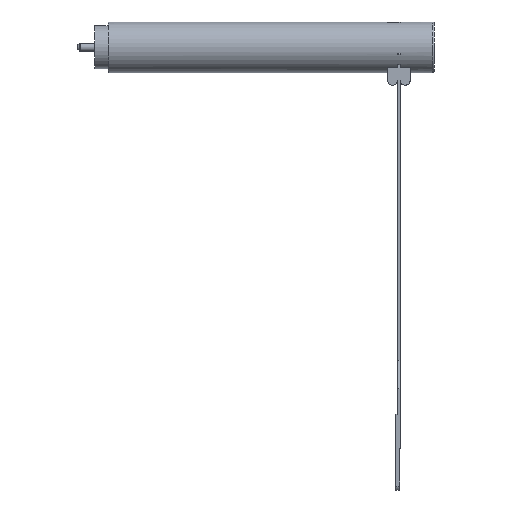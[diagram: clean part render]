
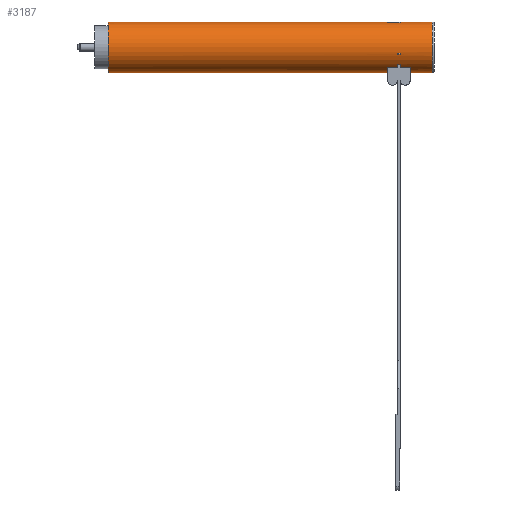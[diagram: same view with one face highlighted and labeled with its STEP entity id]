
A CAD part, top view. The second image highlights one B-rep face of the part: STEP entity #3187.
In plain terms, the highlighted cylindrical face has radius 2 mm (diameter 4 mm), a partial arc.
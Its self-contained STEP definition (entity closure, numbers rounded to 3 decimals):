
#142=CARTESIAN_POINT('',(0.,0.,0.));
#143=DIRECTION('',(1.,0.,0.));
#144=DIRECTION('',(0.,1.,0.));
#145=AXIS2_PLACEMENT_3D('',#142,#143,#144);
#188=DIRECTION('',(-1.,0.,0.));
#189=VECTOR('',#188,22.1);
#190=CARTESIAN_POINT('',(22.1,2.,0.));
#191=LINE('',#190,#189);
#195=DIRECTION('',(-1.,0.,0.));
#196=VECTOR('',#195,22.1);
#197=CARTESIAN_POINT('',(22.1,-2.,0.));
#198=LINE('',#197,#196);
#572=CARTESIAN_POINT('',(23.1,0.,0.));
#573=DIRECTION('',(1.,0.,0.));
#574=DIRECTION('',(0.,-0.243,0.97));
#575=AXIS2_PLACEMENT_3D('',#572,#573,#574);
#602=CARTESIAN_POINT('',(23.1,0.,0.));
#603=DIRECTION('',(1.,0.,0.));
#604=DIRECTION('',(0.,-0.691,0.722));
#605=AXIS2_PLACEMENT_3D('',#602,#603,#604);
#696=DIRECTION('',(-1.,0.,0.));
#697=VECTOR('',#696,0.2);
#698=CARTESIAN_POINT('',(23.1,-0.56,1.92));
#699=LINE('',#698,#697);
#774=DIRECTION('',(1.,0.,0.));
#775=VECTOR('',#774,0.2);
#776=CARTESIAN_POINT('',(22.9,1.923,0.55));
#777=LINE('',#776,#775);
#781=CARTESIAN_POINT('',(23.1,0.,0.));
#782=DIRECTION('',(-1.,0.,0.));
#783=DIRECTION('',(0.,0.971,0.238));
#784=AXIS2_PLACEMENT_3D('',#781,#782,#783);
#789=DIRECTION('',(-1.,0.,0.));
#790=VECTOR('',#789,2.55);
#791=CARTESIAN_POINT('',(25.65,2.,0.));
#792=LINE('',#791,#790);
#796=CARTESIAN_POINT('',(25.65,0.,0.));
#797=DIRECTION('',(-1.,0.,0.));
#798=DIRECTION('',(0.,-1.,0.));
#799=AXIS2_PLACEMENT_3D('',#796,#797,#798);
#804=DIRECTION('',(-1.,0.,0.));
#805=VECTOR('',#804,1.75);
#806=CARTESIAN_POINT('',(25.65,-2.,0.));
#807=LINE('',#806,#805);
#811=CARTESIAN_POINT('',(23.9,0.,0.));
#812=DIRECTION('',(-1.,0.,0.));
#813=DIRECTION('',(0.,-1.,0.));
#814=AXIS2_PLACEMENT_3D('',#811,#812,#813);
#819=DIRECTION('',(-1.,0.,0.));
#820=VECTOR('',#819,0.8);
#821=CARTESIAN_POINT('',(23.9,-1.6,1.2));
#822=LINE('',#821,#820);
#826=DIRECTION('',(-1.,0.,0.));
#827=VECTOR('',#826,0.2);
#828=CARTESIAN_POINT('',(23.1,-1.383,1.445));
#829=LINE('',#828,#827);
#833=CARTESIAN_POINT('',(22.9,0.,0.));
#834=DIRECTION('',(1.,0.,0.));
#835=DIRECTION('',(0.,-0.691,0.722));
#836=AXIS2_PLACEMENT_3D('',#833,#834,#835);
#841=DIRECTION('',(1.,0.,0.));
#842=VECTOR('',#841,0.8);
#843=CARTESIAN_POINT('',(22.1,-1.6,1.2));
#844=LINE('',#843,#842);
#848=CARTESIAN_POINT('',(22.1,0.,0.));
#849=DIRECTION('',(1.,0.,0.));
#850=DIRECTION('',(0.,-0.8,0.6));
#851=AXIS2_PLACEMENT_3D('',#848,#849,#850);
#856=CARTESIAN_POINT('',(22.1,0.,0.));
#857=DIRECTION('',(-1.,0.,0.));
#858=DIRECTION('',(0.,0.971,0.238));
#859=AXIS2_PLACEMENT_3D('',#856,#857,#858);
#864=DIRECTION('',(1.,0.,0.));
#865=VECTOR('',#864,0.8);
#866=CARTESIAN_POINT('',(22.1,1.943,0.475));
#867=LINE('',#866,#865);
#871=CARTESIAN_POINT('',(22.9,0.,0.));
#872=DIRECTION('',(1.,0.,0.));
#873=DIRECTION('',(0.,0.971,0.238));
#874=AXIS2_PLACEMENT_3D('',#871,#872,#873);
#879=CARTESIAN_POINT('',(22.9,0.,0.));
#880=DIRECTION('',(1.,0.,0.));
#881=DIRECTION('',(0.,-0.243,0.97));
#882=AXIS2_PLACEMENT_3D('',#879,#880,#881);
#887=DIRECTION('',(1.,0.,0.));
#888=VECTOR('',#887,0.2);
#889=CARTESIAN_POINT('',(22.9,-0.485,1.94));
#890=LINE('',#889,#888);
#931=CARTESIAN_POINT('',(23.1,0.,0.));
#932=DIRECTION('',(1.,0.,0.));
#933=DIRECTION('',(0.,0.971,0.238));
#934=AXIS2_PLACEMENT_3D('',#931,#932,#933);
#2033=CARTESIAN_POINT('',(0.,2.,0.));
#2034=CARTESIAN_POINT('',(0.,-2.,0.));
#2035=VERTEX_POINT('',#2033);
#2036=VERTEX_POINT('',#2034);
#2073=CARTESIAN_POINT('',(22.1,-1.6,1.2));
#2074=CARTESIAN_POINT('',(22.1,-2.,0.));
#2075=VERTEX_POINT('',#2073);
#2076=VERTEX_POINT('',#2074);
#2215=CARTESIAN_POINT('',(22.9,-1.6,1.2));
#2217=VERTEX_POINT('',#2215);
#2223=CARTESIAN_POINT('',(22.9,1.923,0.55));
#2225=VERTEX_POINT('',#2223);
#2243=CARTESIAN_POINT('',(22.9,-0.485,1.94));
#2244=VERTEX_POINT('',#2243);
#2259=CARTESIAN_POINT('',(23.1,1.943,0.475));
#2260=CARTESIAN_POINT('',(23.1,2.,0.));
#2261=VERTEX_POINT('',#2259);
#2262=VERTEX_POINT('',#2260);
#2270=CARTESIAN_POINT('',(23.9,-2.,0.));
#2272=VERTEX_POINT('',#2270);
#2273=CARTESIAN_POINT('',(23.9,-1.6,1.2));
#2274=VERTEX_POINT('',#2273);
#2279=CARTESIAN_POINT('',(25.65,2.,0.));
#2280=CARTESIAN_POINT('',(25.65,-2.,0.));
#2281=VERTEX_POINT('',#2279);
#2282=VERTEX_POINT('',#2280);
#2287=CARTESIAN_POINT('',(23.1,-0.56,1.92));
#2289=VERTEX_POINT('',#2287);
#2293=CARTESIAN_POINT('',(23.1,-1.383,1.445));
#2294=VERTEX_POINT('',#2293);
#2303=CARTESIAN_POINT('',(22.1,1.943,0.475));
#2304=CARTESIAN_POINT('',(22.1,2.,0.));
#2305=VERTEX_POINT('',#2303);
#2306=VERTEX_POINT('',#2304);
#2307=CARTESIAN_POINT('',(22.9,1.943,0.475));
#2308=VERTEX_POINT('',#2307);
#2315=CARTESIAN_POINT('',(22.9,-0.56,1.92));
#2317=VERTEX_POINT('',#2315);
#2320=CARTESIAN_POINT('',(22.9,-1.383,1.445));
#2322=VERTEX_POINT('',#2320);
#2336=CARTESIAN_POINT('',(23.1,-1.6,1.2));
#2338=VERTEX_POINT('',#2336);
#2343=CARTESIAN_POINT('',(23.1,1.923,0.55));
#2345=VERTEX_POINT('',#2343);
#2363=CARTESIAN_POINT('',(23.1,-0.485,1.94));
#2364=VERTEX_POINT('',#2363);
#3148=CARTESIAN_POINT('',(-2.208,0.,0.));
#3149=DIRECTION('',(1.,0.,0.));
#3150=DIRECTION('',(0.,-1.,0.));
#3151=AXIS2_PLACEMENT_3D('',#3148,#3149,#3150);
#3152=CYLINDRICAL_SURFACE('',#3151,2.);
#3154=ORIENTED_EDGE('',*,*,#3153,.T.);
#3156=ORIENTED_EDGE('',*,*,#3155,.F.);
#3157=ORIENTED_EDGE('',*,*,#2486,.T.);
#3158=ORIENTED_EDGE('',*,*,#2484,.F.);
#3160=ORIENTED_EDGE('',*,*,#3159,.F.);
#3161=ORIENTED_EDGE('',*,*,#2480,.T.);
#3163=ORIENTED_EDGE('',*,*,#3162,.T.);
#3164=ORIENTED_EDGE('',*,*,#2860,.T.);
#3165=ORIENTED_EDGE('',*,*,#2914,.F.);
#3166=ORIENTED_EDGE('',*,*,#3134,.T.);
#3167=ORIENTED_EDGE('',*,*,#2966,.T.);
#3168=ORIENTED_EDGE('',*,*,#2874,.F.);
#3170=ORIENTED_EDGE('',*,*,#3169,.T.);
#3171=ORIENTED_EDGE('',*,*,#2497,.T.);
#3172=ORIENTED_EDGE('',*,*,#2449,.F.);
#3173=ORIENTED_EDGE('',*,*,#2494,.F.);
#3174=ORIENTED_EDGE('',*,*,#2492,.F.);
#3175=ORIENTED_EDGE('',*,*,#2490,.T.);
#3177=ORIENTED_EDGE('',*,*,#3176,.T.);
#3178=EDGE_LOOP('',(#3154,#3156,#3157,#3158,#3160,#3161,#3163,#3164,#3165,#3166,
#3167,#3168,#3170,#3171,#3172,#3173,#3174,#3175,#3177));
#3179=FACE_OUTER_BOUND('',#3178,.F.);
#3180=ORIENTED_EDGE('',*,*,#2954,.T.);
#3181=ORIENTED_EDGE('',*,*,#3000,.F.);
#3182=ORIENTED_EDGE('',*,*,#2906,.F.);
#3184=ORIENTED_EDGE('',*,*,#3183,.F.);
#3185=EDGE_LOOP('',(#3180,#3181,#3182,#3184));
#3186=FACE_BOUND('',#3185,.F.);
#3187=ADVANCED_FACE('',(#3179,#3186),#3152,.T.);
#146=CIRCLE('',#145,2.);
#576=CIRCLE('',#575,2.);
#606=CIRCLE('',#605,2.);
#785=CIRCLE('',#784,2.);
#800=CIRCLE('',#799,2.);
#815=CIRCLE('',#814,2.);
#837=CIRCLE('',#836,2.);
#852=CIRCLE('',#851,2.);
#860=CIRCLE('',#859,2.);
#875=CIRCLE('',#874,2.);
#883=CIRCLE('',#882,2.);
#935=CIRCLE('',#934,2.);
#2449=EDGE_CURVE('',#2035,#2036,#146,.T.);
#2480=EDGE_CURVE('',#2282,#2272,#807,.T.);
#2484=EDGE_CURVE('',#2281,#2262,#792,.T.);
#2486=EDGE_CURVE('',#2261,#2262,#785,.T.);
#2490=EDGE_CURVE('',#2305,#2308,#867,.T.);
#2492=EDGE_CURVE('',#2305,#2306,#860,.T.);
#2494=EDGE_CURVE('',#2306,#2035,#191,.T.);
#2497=EDGE_CURVE('',#2076,#2036,#198,.T.);
#2860=EDGE_CURVE('',#2274,#2338,#822,.T.);
#2874=EDGE_CURVE('',#2075,#2217,#844,.T.);
#2906=EDGE_CURVE('',#2364,#2289,#576,.T.);
#2914=EDGE_CURVE('',#2294,#2338,#606,.T.);
#2954=EDGE_CURVE('',#2244,#2317,#883,.T.);
#2966=EDGE_CURVE('',#2322,#2217,#837,.T.);
#3000=EDGE_CURVE('',#2289,#2317,#699,.T.);
#3134=EDGE_CURVE('',#2294,#2322,#829,.T.);
#3153=EDGE_CURVE('',#2225,#2345,#777,.T.);
#3155=EDGE_CURVE('',#2261,#2345,#935,.T.);
#3159=EDGE_CURVE('',#2282,#2281,#800,.T.);
#3162=EDGE_CURVE('',#2272,#2274,#815,.T.);
#3169=EDGE_CURVE('',#2075,#2076,#852,.T.);
#3176=EDGE_CURVE('',#2308,#2225,#875,.T.);
#3183=EDGE_CURVE('',#2244,#2364,#890,.T.);
